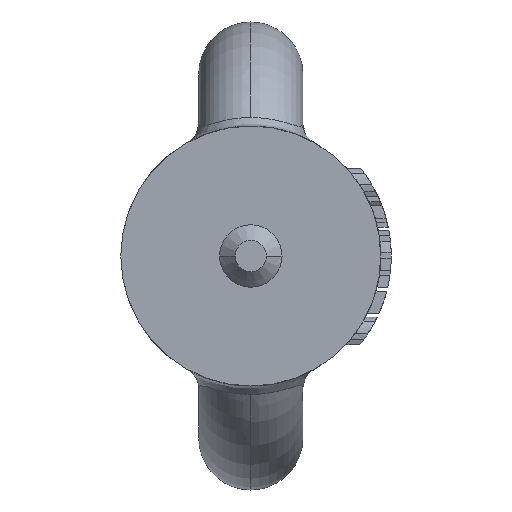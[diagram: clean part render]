
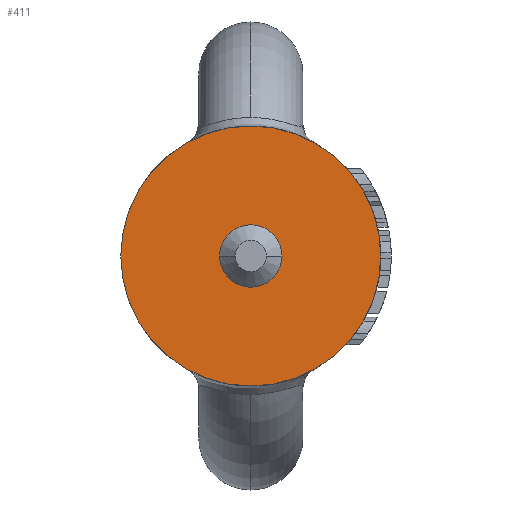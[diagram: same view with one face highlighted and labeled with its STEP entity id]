
A CAD part, front view. The second image highlights one B-rep face of the part: STEP entity #411.
In plain terms, the highlighted planar face has unit normal (0, -1, 0).
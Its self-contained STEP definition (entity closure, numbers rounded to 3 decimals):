
#411=ADVANCED_FACE('',(#828,#829),#830,.F.);
#828=FACE_OUTER_BOUND('',#1998,.T.);
#829=FACE_BOUND('',#1999,.T.);
#830=PLANE('',#2000);
#1998=EDGE_LOOP('',(#3114,#3115));
#1999=EDGE_LOOP('',(#3116,#3117));
#2000=AXIS2_PLACEMENT_3D('',#3118,#3119,#3120);
#3114=ORIENTED_EDGE('',*,*,#3195,.F.);
#3115=ORIENTED_EDGE('',*,*,#3587,.F.);
#3116=ORIENTED_EDGE('',*,*,#3231,.T.);
#3117=ORIENTED_EDGE('',*,*,#3258,.T.);
#3118=CARTESIAN_POINT('',(0.,1.304,0.0));
#3119=DIRECTION('',(0.0,1.0,0.0));
#3120=DIRECTION('',(1.0,0.0,-0.0));
#3195=EDGE_CURVE('',#3712,#3715,#3716,.T.);
#3231=EDGE_CURVE('',#3785,#3782,#3786,.T.);
#3258=EDGE_CURVE('',#3782,#3785,#3822,.T.);
#3587=EDGE_CURVE('',#3715,#3712,#4291,.T.);
#3712=VERTEX_POINT('',#4638);
#3715=VERTEX_POINT('',#4642);
#3716=CIRCLE('',#4643,12.5);
#3782=VERTEX_POINT('',#4749);
#3785=VERTEX_POINT('',#4753);
#3786=CIRCLE('',#4754,2.15);
#3822=CIRCLE('',#4797,2.15);
#4291=CIRCLE('',#5863,12.5);
#4638=CARTESIAN_POINT('',(12.5,1.304,0.));
#4642=CARTESIAN_POINT('',(-12.5,1.304,0.));
#4643=AXIS2_PLACEMENT_3D('',#6211,#6212,#6213);
#4749=CARTESIAN_POINT('',(-2.15,1.304,0.));
#4753=CARTESIAN_POINT('',(2.15,1.304,0.));
#4754=AXIS2_PLACEMENT_3D('',#6282,#6283,#6284);
#4797=AXIS2_PLACEMENT_3D('',#6322,#6323,#6324);
#5863=AXIS2_PLACEMENT_3D('',#6610,#6611,#6612);
#6211=CARTESIAN_POINT('',(0.0,1.304,0.0));
#6212=DIRECTION('',(-0.0,1.0,0.0));
#6213=DIRECTION('',(1.0,0.0,0.0));
#6282=CARTESIAN_POINT('',(0.0,1.304,0.0));
#6283=DIRECTION('',(0.0,1.0,0.0));
#6284=DIRECTION('',(-1.0,0.0,0.0));
#6322=CARTESIAN_POINT('',(0.0,1.304,0.0));
#6323=DIRECTION('',(0.0,1.0,0.0));
#6324=DIRECTION('',(-1.0,0.0,0.0));
#6610=CARTESIAN_POINT('',(0.0,1.304,0.0));
#6611=DIRECTION('',(-0.0,1.0,0.0));
#6612=DIRECTION('',(1.0,0.0,0.0));
